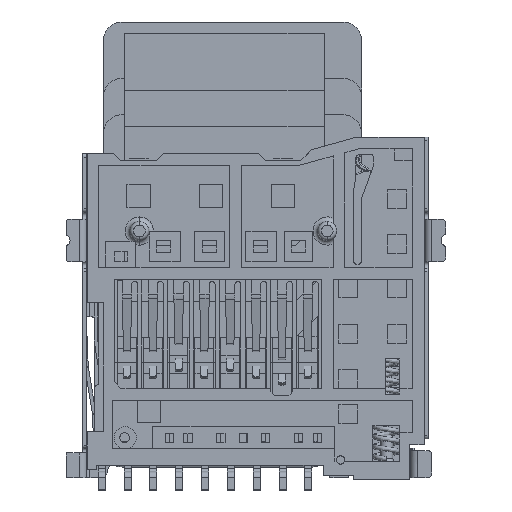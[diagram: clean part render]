
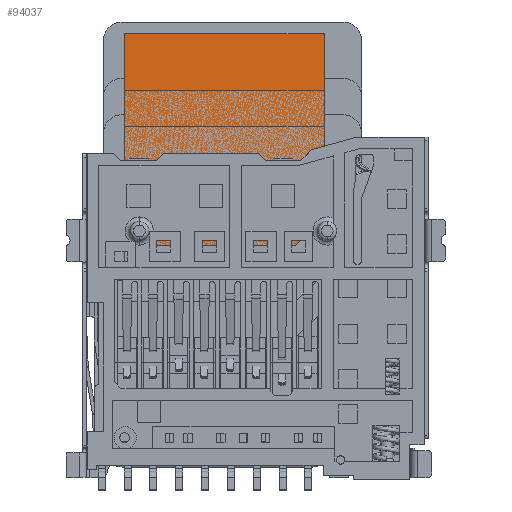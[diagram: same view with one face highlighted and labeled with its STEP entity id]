
A CAD part, front view. The second image highlights one B-rep face of the part: STEP entity #94037.
In plain terms, the highlighted planar face has unit normal (0, -1, 0) as drawn and (0, 0, -1) by its records, which use the part's own axes.
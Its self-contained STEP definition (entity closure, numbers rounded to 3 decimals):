
#92069=DIRECTION('',(0.,-1.,0.));
#92070=VECTOR('',#92069,9.);
#92071=CARTESIAN_POINT('',(-9.159,6.617,-0.05));
#92072=LINE('',#92071,#92070);
#92073=DIRECTION('',(1.,0.,0.));
#92074=VECTOR('',#92073,8.5);
#92075=CARTESIAN_POINT('',(-9.159,-2.383,-0.05));
#92076=LINE('',#92075,#92074);
#92077=DIRECTION('',(0.,1.,0.));
#92078=VECTOR('',#92077,7.8);
#92079=CARTESIAN_POINT('',(-0.659,-2.383,-0.05));
#92080=LINE('',#92079,#92078);
#92081=DIRECTION('',(-0.707,0.707,0.));
#92082=VECTOR('',#92081,1.697);
#92083=CARTESIAN_POINT('',(-0.659,5.417,-0.05));
#92084=LINE('',#92083,#92082);
#92085=DIRECTION('',(-1.,0.,0.));
#92086=VECTOR('',#92085,7.3);
#92087=CARTESIAN_POINT('',(-1.859,6.617,-0.05));
#92088=LINE('',#92087,#92086);
#92884=CARTESIAN_POINT('',(-9.159,-2.383,-0.05));
#92885=VERTEX_POINT('',#92884);
#92886=CARTESIAN_POINT('',(-9.159,6.617,-0.05));
#92887=VERTEX_POINT('',#92886);
#92888=CARTESIAN_POINT('',(-0.659,-2.383,-0.05));
#92889=VERTEX_POINT('',#92888);
#92890=CARTESIAN_POINT('',(-0.659,5.417,-0.05));
#92891=VERTEX_POINT('',#92890);
#92892=CARTESIAN_POINT('',(-1.859,6.617,-0.05));
#92893=VERTEX_POINT('',#92892);
#94025=CARTESIAN_POINT('',(-9.159,-2.383,-0.05));
#94026=DIRECTION('',(0.,0.,1.));
#94027=DIRECTION('',(1.,0.,0.));
#94028=AXIS2_PLACEMENT_3D('',#94025,#94026,#94027);
#94029=PLANE('',#94028);
#94030=ORIENTED_EDGE('',*,*,#93963,.T.);
#94031=ORIENTED_EDGE('',*,*,#93978,.T.);
#94032=ORIENTED_EDGE('',*,*,#93992,.T.);
#94033=ORIENTED_EDGE('',*,*,#94006,.T.);
#94034=ORIENTED_EDGE('',*,*,#94019,.T.);
#94035=EDGE_LOOP('',(#94030,#94031,#94032,#94033,#94034));
#94036=FACE_OUTER_BOUND('',#94035,.F.);
#93963=EDGE_CURVE('',#92887,#92885,#92072,.T.);
#93978=EDGE_CURVE('',#92885,#92889,#92076,.T.);
#93992=EDGE_CURVE('',#92889,#92891,#92080,.T.);
#94006=EDGE_CURVE('',#92891,#92893,#92084,.T.);
#94019=EDGE_CURVE('',#92893,#92887,#92088,.T.);
#94037=ADVANCED_FACE('',(#94036),#94029,.F.);
